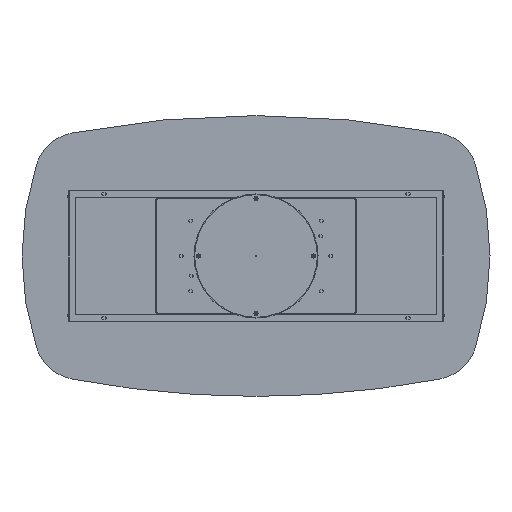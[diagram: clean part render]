
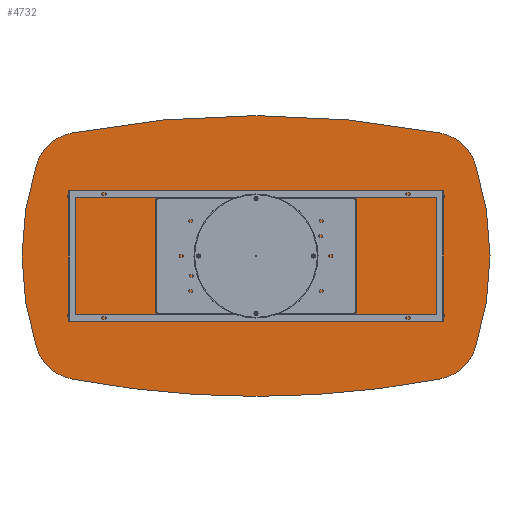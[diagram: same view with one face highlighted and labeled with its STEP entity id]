
A CAD part, front view. The second image highlights one B-rep face of the part: STEP entity #4732.
In plain terms, the highlighted planar face has unit normal (0, -1, 0).
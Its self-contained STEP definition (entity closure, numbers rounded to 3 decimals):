
#260 = CIRCLE ( 'NONE', #7386, 200. ) ;
#729 = PLANE ( 'NONE',  #2746 ) ;
#919 = DIRECTION ( 'NONE',  ( 0., 1., 0. ) ) ;
#969 = VERTEX_POINT ( 'NONE', #12730 ) ;
#1019 = CARTESIAN_POINT ( 'NONE',  ( -261., 0., 0. ) ) ;
#1199 = DIRECTION ( 'NONE',  ( 0., -1., 0. ) ) ;
#1275 = AXIS2_PLACEMENT_3D ( 'NONE', #7623, #8738, #3455 ) ;
#1407 = CIRCLE ( 'NONE', #6943, 4200. ) ;
#1434 = CIRCLE ( 'NONE', #9403, 1261. ) ;
#1478 = EDGE_LOOP ( 'NONE', ( #8114, #11464, #9131, #12482, #8273, #11391, #7631, #4336, #7918 ) ) ;
#1712 = CARTESIAN_POINT ( 'NONE',  ( 784.906, 0., 526.006 ) ) ;
#1831 = CIRCLE ( 'NONE', #12656, 200. ) ;
#1943 = EDGE_CURVE ( 'NONE', #7581, #969, #11949, .T. ) ;
#2027 = EDGE_CURVE ( 'NONE', #12385, #9149, #10646, .T. ) ;
#2032 = CARTESIAN_POINT ( 'NONE',  ( 0., 0., 3600. ) ) ;
#2192 = EDGE_CURVE ( 'NONE', #11869, #7581, #2679, .T. ) ;
#2294 = CIRCLE ( 'NONE', #3179, 1261. ) ;
#2380 = CIRCLE ( 'NONE', #1275, 200. ) ;
#2391 = DIRECTION ( 'NONE',  ( 0., 1., 0. ) ) ;
#2488 = CARTESIAN_POINT ( 'NONE',  ( 784.906, 0., -526.006 ) ) ;
#2679 = CIRCLE ( 'NONE', #10433, 4200. ) ;
#2746 = AXIS2_PLACEMENT_3D ( 'NONE', #11270, #7126, #13345 ) ;
#2870 = DIRECTION ( 'NONE',  ( 0., 0., 1. ) ) ;
#2912 = DIRECTION ( 'NONE',  ( 0., 0., 1. ) ) ;
#2960 = DIRECTION ( 'NONE',  ( 0., 1., 0. ) ) ;
#2982 = DIRECTION ( 'NONE',  ( 0., -1., 0. ) ) ;
#3179 = AXIS2_PLACEMENT_3D ( 'NONE', #13193, #12358, #2870 ) ;
#3455 = DIRECTION ( 'NONE',  ( 0., 0., 1. ) ) ;
#3699 = DIRECTION ( 'NONE',  ( 0., 0., 1. ) ) ;
#3792 = FACE_OUTER_BOUND ( 'NONE', #1478, .T. ) ;
#3994 = CARTESIAN_POINT ( 'NONE',  ( 937.639, 0., 391.646 ) ) ;
#4336 = ORIENTED_EDGE ( 'NONE', *, *, #5434, .F. ) ;
#4410 = EDGE_CURVE ( 'NONE', #9299, #5933, #2294, .T. ) ;
#4546 = CARTESIAN_POINT ( 'NONE',  ( 0., 0., -3600. ) ) ;
#4732 = ADVANCED_FACE ( 'NONE', ( #3792 ), #729, .F. ) ;
#4780 = CARTESIAN_POINT ( 'NONE',  ( -937.639, 0., -391.646 ) ) ;
#5154 = CARTESIAN_POINT ( 'NONE',  ( -784.906, 0., 526.006 ) ) ;
#5434 = EDGE_CURVE ( 'NONE', #12385, #12568, #1434, .T. ) ;
#5933 = VERTEX_POINT ( 'NONE', #11403 ) ;
#6013 = AXIS2_PLACEMENT_3D ( 'NONE', #2032, #919, #8221 ) ;
#6451 = VERTEX_POINT ( 'NONE', #5154 ) ;
#6482 = CARTESIAN_POINT ( 'NONE',  ( 937.639, 0., -391.646 ) ) ;
#6606 = CARTESIAN_POINT ( 'NONE',  ( 747.529, 0., 329.529 ) ) ;
#6943 = AXIS2_PLACEMENT_3D ( 'NONE', #4546, #2391, #3699 ) ;
#6956 = DIRECTION ( 'NONE',  ( 0., 0., 1. ) ) ;
#7126 = DIRECTION ( 'NONE',  ( 0., 1., 0. ) ) ;
#7386 = AXIS2_PLACEMENT_3D ( 'NONE', #7419, #11818, #7683 ) ;
#7419 = CARTESIAN_POINT ( 'NONE',  ( -747.529, 0., 329.529 ) ) ;
#7581 = VERTEX_POINT ( 'NONE', #10015 ) ;
#7623 = CARTESIAN_POINT ( 'NONE',  ( 747.529, 0., -329.529 ) ) ;
#7631 = ORIENTED_EDGE ( 'NONE', *, *, #10268, .T. ) ;
#7683 = DIRECTION ( 'NONE',  ( 0., 0., 1. ) ) ;
#7918 = ORIENTED_EDGE ( 'NONE', *, *, #2027, .T. ) ;
#8114 = ORIENTED_EDGE ( 'NONE', *, *, #12697, .F. ) ;
#8221 = DIRECTION ( 'NONE',  ( 0., 0., 1. ) ) ;
#8273 = ORIENTED_EDGE ( 'NONE', *, *, #1943, .F. ) ;
#8738 = DIRECTION ( 'NONE',  ( 0., -1., 0. ) ) ;
#8830 = DIRECTION ( 'NONE',  ( 0., 0., 1. ) ) ;
#9131 = ORIENTED_EDGE ( 'NONE', *, *, #4410, .F. ) ;
#9149 = VERTEX_POINT ( 'NONE', #1712 ) ;
#9299 = VERTEX_POINT ( 'NONE', #4780 ) ;
#9403 = AXIS2_PLACEMENT_3D ( 'NONE', #1019, #2960, #13557 ) ;
#10015 = CARTESIAN_POINT ( 'NONE',  ( 0., 0., -600. ) ) ;
#10268 = EDGE_CURVE ( 'NONE', #11869, #12568, #2380, .T. ) ;
#10433 = AXIS2_PLACEMENT_3D ( 'NONE', #13316, #13176, #6956 ) ;
#10646 = CIRCLE ( 'NONE', #11305, 200. ) ;
#11270 = CARTESIAN_POINT ( 'NONE',  ( -130.5, 0., 1800. ) ) ;
#11305 = AXIS2_PLACEMENT_3D ( 'NONE', #6606, #1199, #8830 ) ;
#11391 = ORIENTED_EDGE ( 'NONE', *, *, #2192, .F. ) ;
#11403 = CARTESIAN_POINT ( 'NONE',  ( -937.639, 0., 391.646 ) ) ;
#11464 = ORIENTED_EDGE ( 'NONE', *, *, #12123, .T. ) ;
#11597 = EDGE_CURVE ( 'NONE', #9299, #969, #1831, .T. ) ;
#11818 = DIRECTION ( 'NONE',  ( 0., -1., 0. ) ) ;
#11869 = VERTEX_POINT ( 'NONE', #2488 ) ;
#11949 = CIRCLE ( 'NONE', #6013, 4200. ) ;
#12123 = EDGE_CURVE ( 'NONE', #6451, #5933, #260, .T. ) ;
#12358 = DIRECTION ( 'NONE',  ( 0., 1., 0. ) ) ;
#12385 = VERTEX_POINT ( 'NONE', #3994 ) ;
#12482 = ORIENTED_EDGE ( 'NONE', *, *, #11597, .T. ) ;
#12568 = VERTEX_POINT ( 'NONE', #6482 ) ;
#12656 = AXIS2_PLACEMENT_3D ( 'NONE', #13507, #2982, #2912 ) ;
#12697 = EDGE_CURVE ( 'NONE', #6451, #9149, #1407, .T. ) ;
#12730 = CARTESIAN_POINT ( 'NONE',  ( -784.906, 0., -526.006 ) ) ;
#13176 = DIRECTION ( 'NONE',  ( 0., 1., 0. ) ) ;
#13193 = CARTESIAN_POINT ( 'NONE',  ( 261., 0., 0. ) ) ;
#13316 = CARTESIAN_POINT ( 'NONE',  ( 0., 0., 3600. ) ) ;
#13345 = DIRECTION ( 'NONE',  ( 0., 0., 1. ) ) ;
#13507 = CARTESIAN_POINT ( 'NONE',  ( -747.529, 0., -329.529 ) ) ;
#13557 = DIRECTION ( 'NONE',  ( 0., 0., 1. ) ) ;
